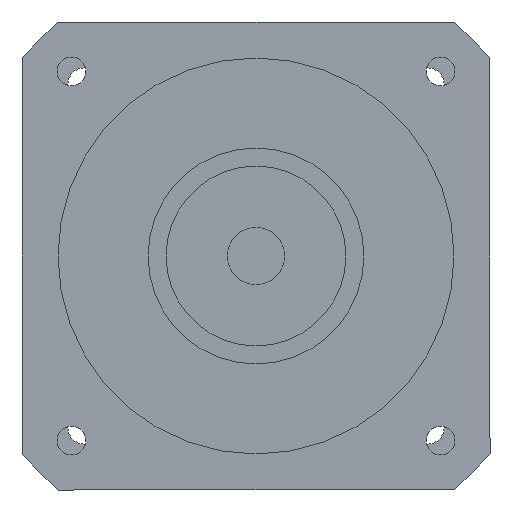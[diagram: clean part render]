
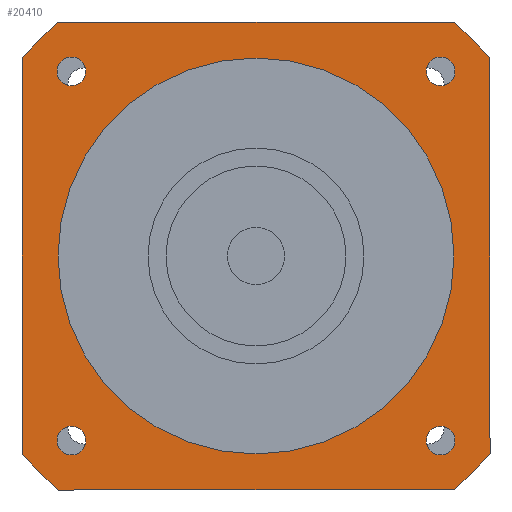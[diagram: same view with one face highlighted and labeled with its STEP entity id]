
A CAD part, left-side view. The second image highlights one B-rep face of the part: STEP entity #20410.
In plain terms, the highlighted planar face has unit normal (-1, 0, 0) as drawn and (0, 0, -1) by its records, which use the part's own axes.
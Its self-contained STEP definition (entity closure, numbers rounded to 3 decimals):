
#18570=CARTESIAN_POINT('',(-47.265,-51.265,-105.));
#18580=VERTEX_POINT('',#18570);
#18660=CARTESIAN_POINT('',(-55.265,-51.265,-105.));
#18670=VERTEX_POINT('',#18660);
#18700=CARTESIAN_POINT('',(-51.265,-51.265,-105.));
#18710=DIRECTION('',(0.,0.,-1.));
#18720=DIRECTION('',(0.,-1.,0.));
#18730=AXIS2_PLACEMENT_3D('',#18700,#18710,#18720);
#18740=CIRCLE('',#18730,4.);
#18750=CARTESIAN_POINT('',(-51.265,-55.265,-105.));
#18760=VERTEX_POINT('',#18750);
#18770=EDGE_CURVE('',#18760,#18670,#18740,.T.);
#18790=EDGE_CURVE('',#18580,#18760,#18740,.T.);
#18840=CARTESIAN_POINT('',(-65.,65.,-105.));
#18850=DIRECTION('',(0.,0.,1.));
#18860=DIRECTION('',(-1.,0.,0.));
#18870=AXIS2_PLACEMENT_3D('',#18840,#18850,#18860);
#18880=PLANE('',#18870);
#18890=CARTESIAN_POINT('',(51.265,-51.265,-105.));
#18900=DIRECTION('',(0.,0.,-1.));
#18910=DIRECTION('',(1.,0.,0.));
#18920=AXIS2_PLACEMENT_3D('',#18890,#18900,#18910);
#18930=CIRCLE('',#18920,4.);
#18940=CARTESIAN_POINT('',(55.265,-51.265,-105.));
#18950=VERTEX_POINT('',#18940);
#18960=CARTESIAN_POINT('',(51.265,-55.265,-105.));
#18970=VERTEX_POINT('',#18960);
#18980=EDGE_CURVE('',#18950,#18970,#18930,.T.);
#18990=ORIENTED_EDGE('',*,*,#18980,.F.);
#19000=CARTESIAN_POINT('',(51.265,-47.265,-105.));
#19010=VERTEX_POINT('',#19000);
#19020=EDGE_CURVE('',#18970,#19010,#18930,.T.);
#19030=ORIENTED_EDGE('',*,*,#19020,.F.);
#19040=EDGE_CURVE('',#19010,#18950,#18930,.T.);
#19050=ORIENTED_EDGE('',*,*,#19040,.F.);
#19060=EDGE_LOOP('',(#19050,#19030,#18990));
#19070=FACE_BOUND('',#19060,.T.);
#19080=CARTESIAN_POINT('',(51.265,51.265,-105.));
#19090=DIRECTION('',(0.,0.,-1.));
#19100=DIRECTION('',(0.,1.,0.));
#19110=AXIS2_PLACEMENT_3D('',#19080,#19090,#19100);
#19120=CIRCLE('',#19110,4.);
#19130=CARTESIAN_POINT('',(51.265,55.265,-105.));
#19140=VERTEX_POINT('',#19130);
#19150=CARTESIAN_POINT('',(55.265,51.265,-105.));
#19160=VERTEX_POINT('',#19150);
#19170=EDGE_CURVE('',#19140,#19160,#19120,.T.);
#19180=ORIENTED_EDGE('',*,*,#19170,.F.);
#19190=CARTESIAN_POINT('',(47.265,51.265,-105.));
#19200=VERTEX_POINT('',#19190);
#19210=EDGE_CURVE('',#19160,#19200,#19120,.T.);
#19220=ORIENTED_EDGE('',*,*,#19210,.F.);
#19230=EDGE_CURVE('',#19200,#19140,#19120,.T.);
#19240=ORIENTED_EDGE('',*,*,#19230,.F.);
#19250=EDGE_LOOP('',(#19240,#19220,#19180));
#19260=FACE_BOUND('',#19250,.T.);
#19270=CARTESIAN_POINT('',(-51.265,51.265,-105.));
#19280=DIRECTION('',(0.,0.,-1.));
#19290=DIRECTION('',(-1.,0.,0.));
#19300=AXIS2_PLACEMENT_3D('',#19270,#19280,#19290);
#19310=CIRCLE('',#19300,4.);
#19320=CARTESIAN_POINT('',(-55.265,51.265,-105.));
#19330=VERTEX_POINT('',#19320);
#19340=CARTESIAN_POINT('',(-51.265,55.265,-105.));
#19350=VERTEX_POINT('',#19340);
#19360=EDGE_CURVE('',#19330,#19350,#19310,.T.);
#19370=ORIENTED_EDGE('',*,*,#19360,.F.);
#19380=CARTESIAN_POINT('',(-51.265,47.265,-105.));
#19390=VERTEX_POINT('',#19380);
#19400=EDGE_CURVE('',#19350,#19390,#19310,.T.);
#19410=ORIENTED_EDGE('',*,*,#19400,.F.);
#19420=EDGE_CURVE('',#19390,#19330,#19310,.T.);
#19430=ORIENTED_EDGE('',*,*,#19420,.F.);
#19440=EDGE_LOOP('',(#19430,#19410,#19370));
#19450=FACE_BOUND('',#19440,.T.);
#19460=ORIENTED_EDGE('',*,*,#18770,.F.);
#19470=EDGE_CURVE('',#18670,#18580,#18740,.T.);
#19480=ORIENTED_EDGE('',*,*,#19470,.F.);
#19490=ORIENTED_EDGE('',*,*,#18790,.F.);
#19500=EDGE_LOOP('',(#19490,#19480,#19460));
#19510=FACE_BOUND('',#19500,.T.);
#19520=CARTESIAN_POINT('',(0.,0.,
-105.));
#19530=DIRECTION('',(0.,0.,1.));
#19540=DIRECTION('',(0.,-1.,0.));
#19550=AXIS2_PLACEMENT_3D('',#19520,#19530,#19540);
#19560=CIRCLE('',#19550,85.);
#19570=CARTESIAN_POINT('',(-65.,-54.772,-105.));
#19580=VERTEX_POINT('',#19570);
#19590=CARTESIAN_POINT('',(-54.772,-65.,-105.));
#19600=VERTEX_POINT('',#19590);
#19610=EDGE_CURVE('',#19580,#19600,#19560,.T.);
#19620=ORIENTED_EDGE('',*,*,#19610,.F.);
#19630=CARTESIAN_POINT('',(-65.,-65.,-105.));
#19640=DIRECTION('',(1.,0.,0.));
#19650=VECTOR('',#19640,1000.);
#19660=LINE('',#19630,#19650);
#19670=CARTESIAN_POINT('',(54.772,-65.,-105.));
#19680=VERTEX_POINT('',#19670);
#19690=EDGE_CURVE('',#19600,#19680,#19660,.T.);
#19700=ORIENTED_EDGE('',*,*,#19690,.F.);
#19710=CARTESIAN_POINT('',(0.,0.,
-105.));
#19720=DIRECTION('',(0.,0.,1.));
#19730=DIRECTION('',(0.,-1.,0.));
#19740=AXIS2_PLACEMENT_3D('',#19710,#19720,#19730);
#19750=CIRCLE('',#19740,85.);
#19760=CARTESIAN_POINT('',(65.,-54.772,-105.));
#19770=VERTEX_POINT('',#19760);
#19780=EDGE_CURVE('',#19680,#19770,#19750,.T.);
#19790=ORIENTED_EDGE('',*,*,#19780,.F.);
#19800=CARTESIAN_POINT('',(65.,-65.,-105.));
#19810=DIRECTION('',(0.,1.,0.));
#19820=VECTOR('',#19810,1000.);
#19830=LINE('',#19800,#19820);
#19840=CARTESIAN_POINT('',(65.,54.772,-105.));
#19850=VERTEX_POINT('',#19840);
#19860=EDGE_CURVE('',#19770,#19850,#19830,.T.);
#19870=ORIENTED_EDGE('',*,*,#19860,.F.);
#19880=CARTESIAN_POINT('',(0.,0.,
-105.));
#19890=DIRECTION('',(0.,0.,1.));
#19900=DIRECTION('',(0.,-1.,0.));
#19910=AXIS2_PLACEMENT_3D('',#19880,#19890,#19900);
#19920=CIRCLE('',#19910,85.);
#19930=CARTESIAN_POINT('',(54.772,65.,-105.));
#19940=VERTEX_POINT('',#19930);
#19950=EDGE_CURVE('',#19850,#19940,#19920,.T.);
#19960=ORIENTED_EDGE('',*,*,#19950,.F.);
#19970=CARTESIAN_POINT('',(65.,65.,-105.));
#19980=DIRECTION('',(-1.,0.,0.));
#19990=VECTOR('',#19980,1000.);
#20000=LINE('',#19970,#19990);
#20010=CARTESIAN_POINT('',(-54.772,65.,-105.));
#20020=VERTEX_POINT('',#20010);
#20030=EDGE_CURVE('',#19940,#20020,#20000,.T.);
#20040=ORIENTED_EDGE('',*,*,#20030,.F.);
#20050=CARTESIAN_POINT('',(0.,0.,
-105.));
#20060=DIRECTION('',(0.,0.,1.));
#20070=DIRECTION('',(0.,-1.,0.));
#20080=AXIS2_PLACEMENT_3D('',#20050,#20060,#20070);
#20090=CIRCLE('',#20080,85.);
#20100=CARTESIAN_POINT('',(-65.,54.772,-105.));
#20110=VERTEX_POINT('',#20100);
#20120=EDGE_CURVE('',#20020,#20110,#20090,.T.);
#20130=ORIENTED_EDGE('',*,*,#20120,.F.);
#20140=CARTESIAN_POINT('',(-65.,65.,-105.));
#20150=DIRECTION('',(0.,-1.,0.));
#20160=VECTOR('',#20150,1000.);
#20170=LINE('',#20140,#20160);
#20180=EDGE_CURVE('',#20110,#19580,#20170,.T.);
#20190=ORIENTED_EDGE('',*,*,#20180,.F.);
#20200=EDGE_LOOP('',(#20190,#20130,#20040,#19960,#19870,#19790,#19700,
#19620));
#20210=FACE_OUTER_BOUND('',#20200,.T.);
#20220=CARTESIAN_POINT('',(0.,0.,
-105.));
#20230=DIRECTION('',(0.,0.,1.));
#20240=DIRECTION('',(0.,-1.,0.));
#20250=AXIS2_PLACEMENT_3D('',#20220,#20230,#20240);
#20260=CIRCLE('',#20250,55.);
#20270=CARTESIAN_POINT('',(55.,0.,-105.));
#20280=VERTEX_POINT('',#20270);
#20290=CARTESIAN_POINT('',(-55.,0.,-105.));
#20300=VERTEX_POINT('',#20290);
#20310=EDGE_CURVE('',#20280,#20300,#20260,.T.);
#20320=ORIENTED_EDGE('',*,*,#20310,.T.);
#20330=CARTESIAN_POINT('',(0.,-55.,-105.));
#20340=VERTEX_POINT('',#20330);
#20350=EDGE_CURVE('',#20340,#20280,#20260,.T.);
#20360=ORIENTED_EDGE('',*,*,#20350,.T.);
#20370=EDGE_CURVE('',#20300,#20340,#20260,.T.);
#20380=ORIENTED_EDGE('',*,*,#20370,.T.);
#20390=EDGE_LOOP('',(#20380,#20360,#20320));
#20400=FACE_BOUND('',#20390,.T.);
#20410=ADVANCED_FACE('',(#19070,#19260,#19450,#19510,#20210,#20400),
#18880,.F.);
